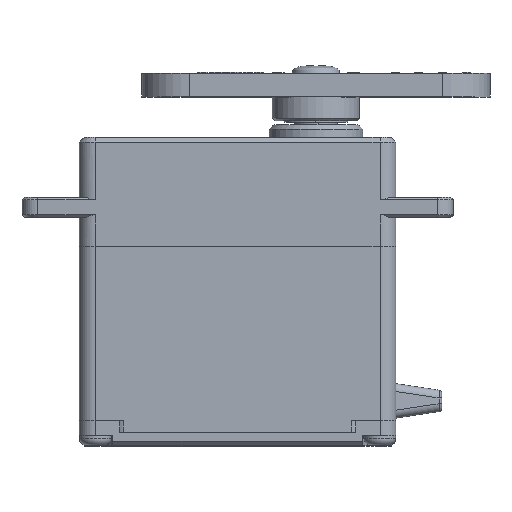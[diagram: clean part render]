
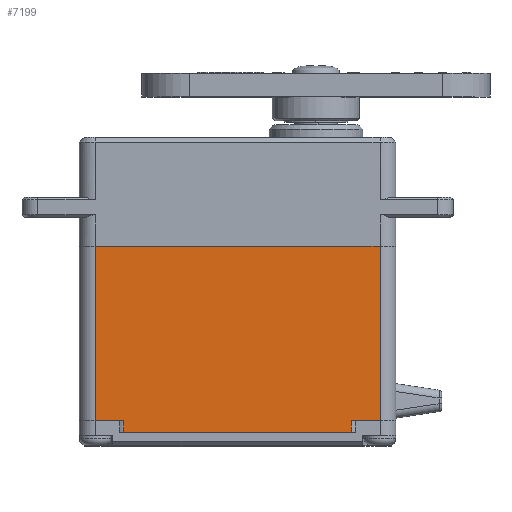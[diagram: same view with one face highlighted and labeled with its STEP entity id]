
A CAD part, top view. The second image highlights one B-rep face of the part: STEP entity #7199.
In plain terms, the highlighted planar face has unit normal (0, 0, 1).
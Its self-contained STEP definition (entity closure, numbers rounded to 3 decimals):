
#5072=DIRECTION('',(1.,0.,0.));
#5073=VECTOR('',#5072,28.717);
#5074=CARTESIAN_POINT('',(-14.359,-23.5,10.));
#5075=LINE('',#5074,#5073);
#5320=DIRECTION('',(0.,-1.,0.));
#5321=VECTOR('',#5320,22.);
#5322=CARTESIAN_POINT('',(-18.,0.,10.));
#5323=LINE('',#5322,#5321);
#5357=DIRECTION('',(1.,0.,0.));
#5358=VECTOR('',#5357,3.641);
#5359=CARTESIAN_POINT('',(-18.,-22.,10.));
#5360=LINE('',#5359,#5358);
#5403=DIRECTION('',(1.,0.,0.));
#5404=VECTOR('',#5403,36.);
#5405=CARTESIAN_POINT('',(-18.,0.,10.));
#5406=LINE('',#5405,#5404);
#5417=DIRECTION('',(0.,-1.,0.));
#5418=VECTOR('',#5417,1.5);
#5419=CARTESIAN_POINT('',(-14.359,-22.,10.));
#5420=LINE('',#5419,#5418);
#5424=DIRECTION('',(0.,1.,0.));
#5425=VECTOR('',#5424,22.);
#5426=CARTESIAN_POINT('',(18.,-22.,10.));
#5427=LINE('',#5426,#5425);
#5453=DIRECTION('',(1.,0.,0.));
#5454=VECTOR('',#5453,3.641);
#5455=CARTESIAN_POINT('',(14.359,-22.,10.));
#5456=LINE('',#5455,#5454);
#5521=DIRECTION('',(0.,1.,0.));
#5522=VECTOR('',#5521,1.5);
#5523=CARTESIAN_POINT('',(14.359,-23.5,10.));
#5524=LINE('',#5523,#5522);
#6533=CARTESIAN_POINT('',(18.,0.,10.));
#6534=VERTEX_POINT('',#6533);
#6535=CARTESIAN_POINT('',(-18.,0.,10.));
#6536=VERTEX_POINT('',#6535);
#6617=CARTESIAN_POINT('',(-14.359,-23.5,10.));
#6618=VERTEX_POINT('',#6617);
#6619=CARTESIAN_POINT('',(14.359,-23.5,10.));
#6620=VERTEX_POINT('',#6619);
#6669=CARTESIAN_POINT('',(-18.,-22.,10.));
#6670=VERTEX_POINT('',#6669);
#6671=CARTESIAN_POINT('',(-14.359,-22.,10.));
#6672=VERTEX_POINT('',#6671);
#6675=CARTESIAN_POINT('',(18.,-22.,10.));
#6676=VERTEX_POINT('',#6675);
#6677=CARTESIAN_POINT('',(14.359,-22.,10.));
#6678=VERTEX_POINT('',#6677);
#7180=CARTESIAN_POINT('',(-18.,0.,10.));
#7181=DIRECTION('',(0.,0.,1.));
#7182=DIRECTION('',(1.,0.,0.));
#7183=AXIS2_PLACEMENT_3D('',#7180,#7181,#7182);
#7184=PLANE('',#7183);
#7186=ORIENTED_EDGE('',*,*,#7185,.F.);
#7187=ORIENTED_EDGE('',*,*,#7167,.F.);
#7188=ORIENTED_EDGE('',*,*,#7153,.F.);
#7189=ORIENTED_EDGE('',*,*,#6840,.T.);
#7191=ORIENTED_EDGE('',*,*,#7190,.F.);
#7193=ORIENTED_EDGE('',*,*,#7192,.F.);
#7195=ORIENTED_EDGE('',*,*,#7194,.F.);
#7196=ORIENTED_EDGE('',*,*,#6975,.F.);
#7197=EDGE_LOOP('',(#7186,#7187,#7188,#7189,#7191,#7193,#7195,#7196));
#7198=FACE_OUTER_BOUND('',#7197,.F.);
#7199=ADVANCED_FACE('',(#7198),#7184,.T.);
#6840=EDGE_CURVE('',#6536,#6534,#5406,.T.);
#6975=EDGE_CURVE('',#6618,#6620,#5075,.T.);
#7153=EDGE_CURVE('',#6536,#6670,#5323,.T.);
#7167=EDGE_CURVE('',#6670,#6672,#5360,.T.);
#7185=EDGE_CURVE('',#6672,#6618,#5420,.T.);
#7190=EDGE_CURVE('',#6676,#6534,#5427,.T.);
#7192=EDGE_CURVE('',#6678,#6676,#5456,.T.);
#7194=EDGE_CURVE('',#6620,#6678,#5524,.T.);
